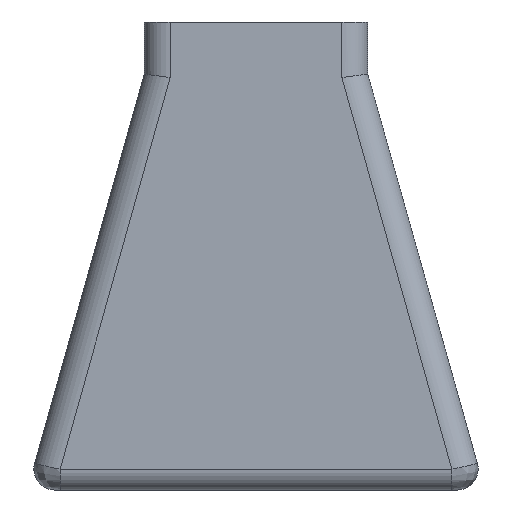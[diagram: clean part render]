
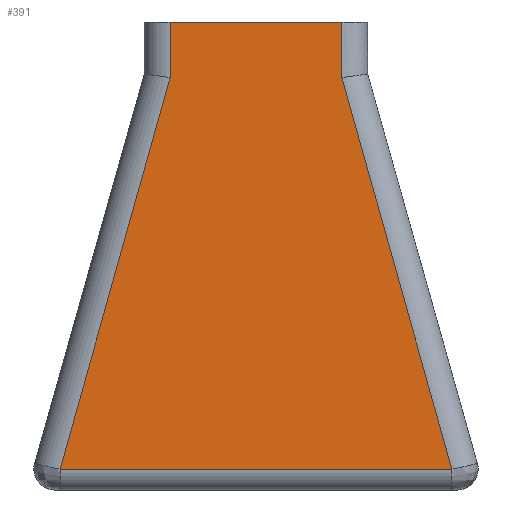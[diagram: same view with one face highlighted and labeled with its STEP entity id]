
A CAD part, left-side view. The second image highlights one B-rep face of the part: STEP entity #391.
In plain terms, the highlighted planar face has unit normal (-1, 0, 0).
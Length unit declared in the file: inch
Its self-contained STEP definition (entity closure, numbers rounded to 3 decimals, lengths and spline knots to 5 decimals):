
#25=PLANE($,#428);
#36=FACE_OUTER_BOUND($,#63,.T.);
#63=EDGE_LOOP($,(#291,#292,#293,#294,#295,#296));
#104=LINE($,#618,#134);
#110=LINE($,#637,#140);
#111=LINE($,#640,#141);
#112=LINE($,#642,#142);
#113=LINE($,#644,#143);
#114=LINE($,#645,#144);
#134=VECTOR($,#486,0.165);
#140=VECTOR($,#506,0.05345);
#141=VECTOR($,#509,0.39116);
#142=VECTOR($,#510,0.37681);
#143=VECTOR($,#511,0.39116);
#144=VECTOR($,#512,0.05345);
#180=VERTEX_POINT($,#615);
#181=VERTEX_POINT($,#617);
#187=VERTEX_POINT($,#635);
#188=VERTEX_POINT($,#639);
#189=VERTEX_POINT($,#641);
#190=VERTEX_POINT($,#643);
#216=EDGE_CURVE($,#180,#181,#104,.T.);
#226=EDGE_CURVE($,#187,#180,#110,.T.);
#227=EDGE_CURVE($,#188,#187,#111,.T.);
#228=EDGE_CURVE($,#189,#188,#112,.T.);
#229=EDGE_CURVE($,#190,#189,#113,.T.);
#230=EDGE_CURVE($,#181,#190,#114,.T.);
#291=ORIENTED_EDGE($,*,*,#226,.F.);
#292=ORIENTED_EDGE($,*,*,#227,.F.);
#293=ORIENTED_EDGE($,*,*,#228,.F.);
#294=ORIENTED_EDGE($,*,*,#229,.F.);
#295=ORIENTED_EDGE($,*,*,#230,.F.);
#296=ORIENTED_EDGE($,*,*,#216,.F.);
#391=ADVANCED_FACE($,(#36),#25,.F.);
#428=AXIS2_PLACEMENT_3D($,#638,#507,#508);
#486=DIRECTION($,(0.,-1.,0.));
#506=DIRECTION($,(0.,0.,1.));
#507=DIRECTION('center_axis',(1.,0.,0.));
#508=DIRECTION('ref_axis',(0.,0.,-1.));
#509=DIRECTION($,(0.,-0.271,0.963));
#510=DIRECTION($,(0.,1.,0.));
#511=DIRECTION($,(0.,-0.271,-0.963));
#512=DIRECTION($,(0.,0.,-1.));
#615=CARTESIAN_POINT('',(0.,0.3025,0.45));
#617=CARTESIAN_POINT('',(0.,0.1375,0.45));
#618=CARTESIAN_POINT($,(0.,0.3275,0.45));
#635=CARTESIAN_POINT('',(0.,0.3025,0.39655));
#637=CARTESIAN_POINT($,(0.,0.3025,0.2963));
#638=CARTESIAN_POINT('Origin',(0.,0.22,0.19259));
#639=CARTESIAN_POINT('',(0.,0.40841,0.02));
#640=CARTESIAN_POINT($,(0.,0.38277,0.11114));
#641=CARTESIAN_POINT('',(0.,0.03159,0.02));
#642=CARTESIAN_POINT($,(0.,0.11,0.02));
#643=CARTESIAN_POINT('',(0.,0.1375,0.39655));
#644=CARTESIAN_POINT($,(0.,0.11348,0.31114));
#645=CARTESIAN_POINT($,(0.,0.1375,0.3213));
